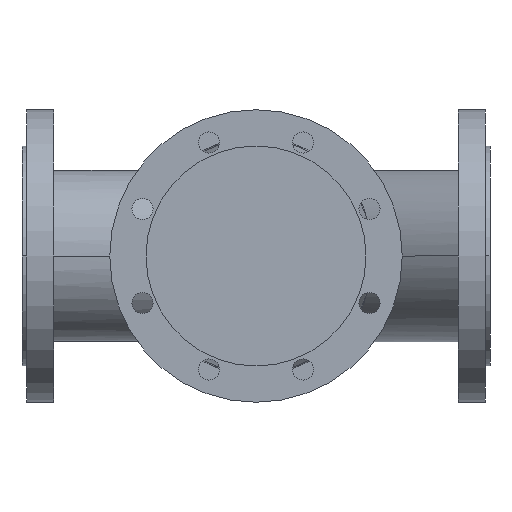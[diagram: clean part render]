
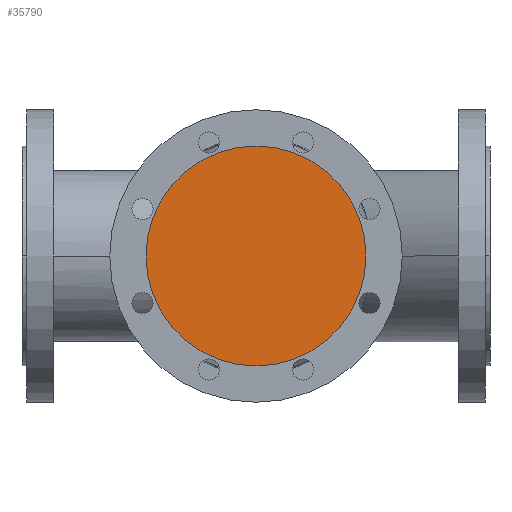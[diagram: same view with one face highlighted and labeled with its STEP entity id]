
A CAD part, front view. The second image highlights one B-rep face of the part: STEP entity #35790.
In plain terms, the highlighted planar face has unit normal (0, -1, 0).
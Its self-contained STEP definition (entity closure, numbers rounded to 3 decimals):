
#5330=CARTESIAN_POINT('',(106.,-200.,0.));
#5340=VERTEX_POINT('',#5330);
#5370=CARTESIAN_POINT('',(200.,-200.,0.));
#5380=DIRECTION('',(0.,1.,0.));
#5390=DIRECTION('',(1.,0.,0.));
#5400=AXIS2_PLACEMENT_3D('',#5370,#5380,#5390);
#5410=CIRCLE('',#5400,94.);
#5420=CARTESIAN_POINT('',(294.,-200.,0.));
#5430=VERTEX_POINT('',#5420);
#5440=EDGE_CURVE('',#5430,#5340,#5410,.T.);
#35690=CARTESIAN_POINT('',(247.,-200.,0.));
#35700=DIRECTION('',(0.,-1.,0.));
#35710=DIRECTION('',(-1.,0.,0.));
#35720=AXIS2_PLACEMENT_3D('',#35690,#35700,#35710);
#35730=PLANE('',#35720);
#35740=EDGE_CURVE('',#5340,#5430,#5410,.T.);
#35750=ORIENTED_EDGE('',*,*,#35740,.F.);
#35760=ORIENTED_EDGE('',*,*,#5440,.F.);
#35770=EDGE_LOOP('',(#35760,#35750));
#35780=FACE_OUTER_BOUND('',#35770,.T.);
#35790=ADVANCED_FACE('',(#35780),#35730,.T.);
